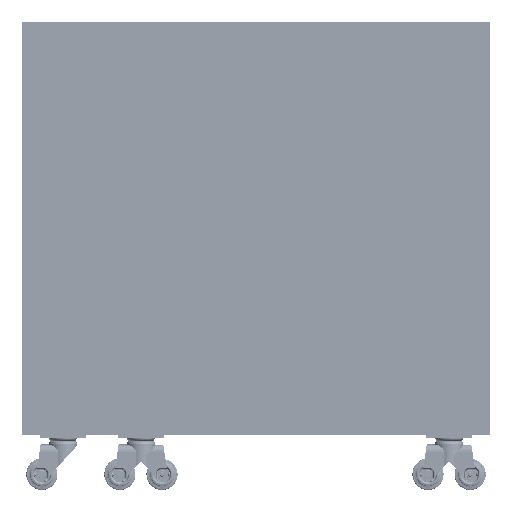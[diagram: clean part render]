
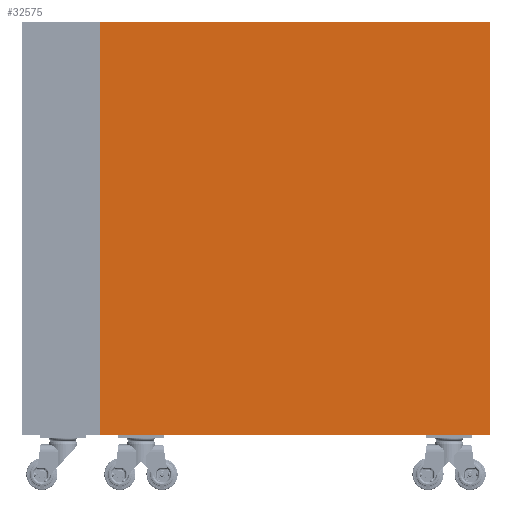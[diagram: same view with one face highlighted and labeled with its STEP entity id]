
A CAD part, left-side view. The second image highlights one B-rep face of the part: STEP entity #32575.
In plain terms, the highlighted planar face has unit normal (-1, 0, 0).
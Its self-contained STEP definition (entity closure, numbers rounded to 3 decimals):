
#10297=ORIENTED_EDGE('',*,*,#15371,.F.);
#10298=ORIENTED_EDGE('',*,*,#15379,.F.);
#10299=ORIENTED_EDGE('',*,*,#15380,.T.);
#10300=ORIENTED_EDGE('',*,*,#15381,.T.);
#15371=EDGE_CURVE('',#18627,#18628,#21253,.T.);
#15379=EDGE_CURVE('',#18635,#18627,#21261,.T.);
#15380=EDGE_CURVE('',#18635,#18636,#21262,.T.);
#15381=EDGE_CURVE('',#18636,#18628,#21263,.T.);
#18627=VERTEX_POINT('',#58307);
#18628=VERTEX_POINT('',#58308);
#18635=VERTEX_POINT('',#58324);
#18636=VERTEX_POINT('',#58326);
#21253=LINE('',#58306,#23797);
#21261=LINE('',#58323,#23805);
#21262=LINE('',#58325,#23806);
#21263=LINE('',#58327,#23807);
#23797=VECTOR('',#47689,1000.);
#23805=VECTOR('',#47699,1000.);
#23806=VECTOR('',#47700,1000.);
#23807=VECTOR('',#47701,1000.);
#26530=EDGE_LOOP('',(#10297,#10298,#10299,#10300));
#29302=FACE_BOUND('',#26530,.T.);
#30702=PLANE('',#39105);
#32575=ADVANCED_FACE('',(#29302),#30702,.T.);
#39105=AXIS2_PLACEMENT_3D('',#58322,#47697,#47698);
#47689=DIRECTION('',(0.,0.,-1.));
#47697=DIRECTION('',(-1.,0.,0.));
#47698=DIRECTION('',(0.,0.,1.));
#47699=DIRECTION('',(0.,-1.,0.));
#47700=DIRECTION('',(0.,0.,-1.));
#47701=DIRECTION('',(0.,-1.,0.));
#58306=CARTESIAN_POINT('',(0.,0.,530.));
#58307=CARTESIAN_POINT('',(0.,0.,530.));
#58308=CARTESIAN_POINT('',(0.,0.,0.));
#58322=CARTESIAN_POINT('',(0.,500.,530.));
#58323=CARTESIAN_POINT('',(0.,500.,530.));
#58324=CARTESIAN_POINT('',(0.,500.,530.));
#58325=CARTESIAN_POINT('',(0.,500.,530.));
#58326=CARTESIAN_POINT('',(0.,500.,0.));
#58327=CARTESIAN_POINT('',(0.,500.,0.));
